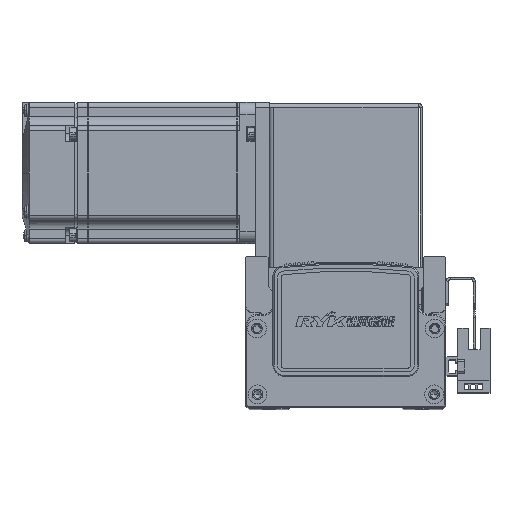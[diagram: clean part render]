
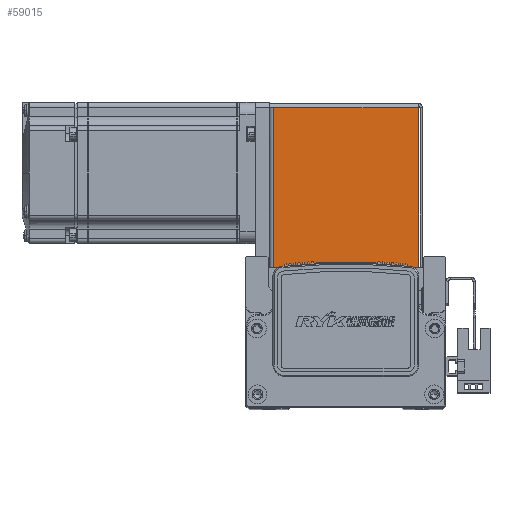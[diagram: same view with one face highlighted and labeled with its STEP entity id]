
A CAD part, top view. The second image highlights one B-rep face of the part: STEP entity #59015.
In plain terms, the highlighted planar face has unit normal (0, 0, 1).
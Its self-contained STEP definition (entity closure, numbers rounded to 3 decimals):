
#383 = CARTESIAN_POINT ( 'NONE',  ( -30.793, 68.5, 35. ) ) ;
#392 = CARTESIAN_POINT ( 'NONE',  ( -30.793, 0.737, 35. ) ) ;
#411 = CARTESIAN_POINT ( 'NONE',  ( 30.763, 68.5, 35. ) ) ;
#476 = CARTESIAN_POINT ( 'NONE',  ( 30.763, 0.737, 35. ) ) ;
#21425 = EDGE_CURVE ( 'NONE', #28670, #28682, #67313, .T. ) ;
#21639 = EDGE_CURVE ( 'NONE', #28734, #28596, #67489, .T. ) ;
#21714 = EDGE_CURVE ( 'NONE', #28596, #28682, #67525, .T. ) ;
#21724 = EDGE_CURVE ( 'NONE', #28734, #28670, #67476, .T. ) ;
#28596 = VERTEX_POINT ( 'NONE', #392 ) ;
#28670 = VERTEX_POINT ( 'NONE', #411 ) ;
#28682 = VERTEX_POINT ( 'NONE', #383 ) ;
#28734 = VERTEX_POINT ( 'NONE', #476 ) ;
#41816 = EDGE_LOOP ( 'NONE', ( #48924, #49009, #49003, #48966 ) ) ;
#46413 = AXIS2_PLACEMENT_3D ( 'NONE', #55018, #55026, #55029 ) ;
#48924 = ORIENTED_EDGE ( 'NONE', *, *, #21724, .T. ) ;
#48966 = ORIENTED_EDGE ( 'NONE', *, *, #21639, .F. ) ;
#49003 = ORIENTED_EDGE ( 'NONE', *, *, #21714, .F. ) ;
#49009 = ORIENTED_EDGE ( 'NONE', *, *, #21425, .T. ) ;
#52970 = FACE_OUTER_BOUND ( 'NONE', #41816, .T. ) ;
#54985 = PLANE ( 'NONE',  #46413 ) ;
#55018 = CARTESIAN_POINT ( 'NONE',  ( 0., 0., 35. ) ) ;
#55026 = DIRECTION ( 'NONE',  ( 0., 0., -1. ) ) ;
#55029 = DIRECTION ( 'NONE',  ( -1., 0., 0. ) ) ;
#59015 = ADVANCED_FACE ( 'NONE', ( #52970 ), #54985, .F. ) ;
#66282 = CARTESIAN_POINT ( 'NONE',  ( 0., 68.5, 35. ) ) ;
#66293 = DIRECTION ( 'NONE',  ( -1., 0., 0. ) ) ;
#66531 = CARTESIAN_POINT ( 'NONE',  ( -32.5, 0.737, 35. ) ) ;
#66545 = DIRECTION ( 'NONE',  ( -1., 0., 0. ) ) ;
#66603 = CARTESIAN_POINT ( 'NONE',  ( 30.763, 0.737, 35. ) ) ;
#66618 = DIRECTION ( 'NONE',  ( 0., 1., 0. ) ) ;
#66627 = DIRECTION ( 'NONE',  ( 0., 1., 0. ) ) ;
#66640 = CARTESIAN_POINT ( 'NONE',  ( -30.793, 0., 35. ) ) ;
#67237 = VECTOR ( 'NONE', #66293, 1000. ) ;
#67313 = LINE ( 'NONE', #66282, #67237 ) ;
#67476 = LINE ( 'NONE', #66603, #67504 ) ;
#67482 = VECTOR ( 'NONE', #66627, 1000. ) ;
#67489 = LINE ( 'NONE', #66531, #67536 ) ;
#67504 = VECTOR ( 'NONE', #66618, 1000. ) ;
#67525 = LINE ( 'NONE', #66640, #67482 ) ;
#67536 = VECTOR ( 'NONE', #66545, 1000. ) ;
